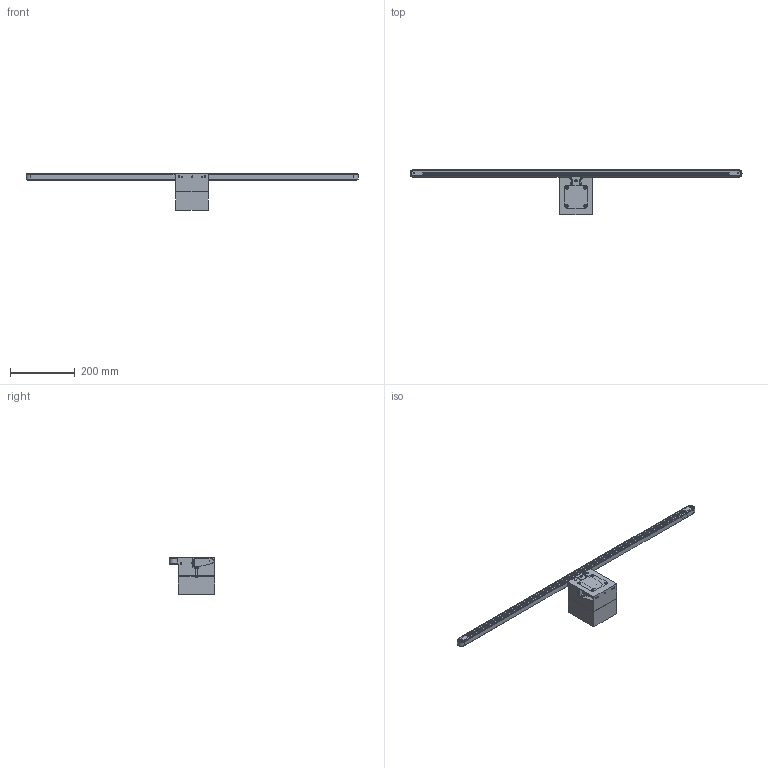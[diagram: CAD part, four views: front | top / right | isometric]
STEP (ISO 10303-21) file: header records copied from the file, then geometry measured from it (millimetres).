
FILE_DESCRIPTION(/* description */ (''),/* implementation_level */ '2;1');
FILE_NAME(/* name */ 'G:\DATEN\CAD\Förderband\Marketing\3D-Modelle (Standard)\FR-20-20-M\FR-20-20-M-1000-K.stp',/* time_stamp */ '2019-03-27T16:37:20+01:00',/* author */ ('pia.schaefer'),/* organization */ (''),/* preprocessor_version */ 'ST-DEVELOPER v17',/* originating_system */ 'Autodesk Inventor 2019',/* authorisation */ '');
FILE_SCHEMA (('AUTOMOTIVE_DESIGN { 1 0 10303 214 3 1 1 }'));
Length unit declared in the file: millimetre
Products named in the file (1): FR-20-20-M-1000-K
Bounding box: 1025.6 x 140.3 x 114 mm (x, y, z)
Volume: 1499032.6 mm3; surface area: 421594.7 mm2
Topology: 33 solids, 36 shells, 970 faces, 2643 edges, 1785 vertices
Faces by surface type: plane 521, cylinder 234, bspline 122, cone 77, torus 16
Full cylindrical faces by diameter (mm): 1.6 x4, 2.459 x2, 3 x2, 3.5 x4, 4 x6, 4.134 x6, 4.3 x1, 4.5 x4, 4.917 x3, 5 x10, 5.2 x2, 5.5 x2, 6.5 x1, 6.647 x1, 6.773 x1, 7 x2, 8 x14, 8.773 x1, 9.43 x2, 9.6 x2, 10 x5, 11 x1, 22 x2, 24 x2
Entity records: 33255 total; most frequent: CARTESIAN_POINT 8162, ORIENTED_EDGE 5242, DIRECTION 4631, EDGE_CURVE 2621, VERTEX_POINT 1785, AXIS2_PLACEMENT_3D 1551, LINE 1529, VECTOR 1529
